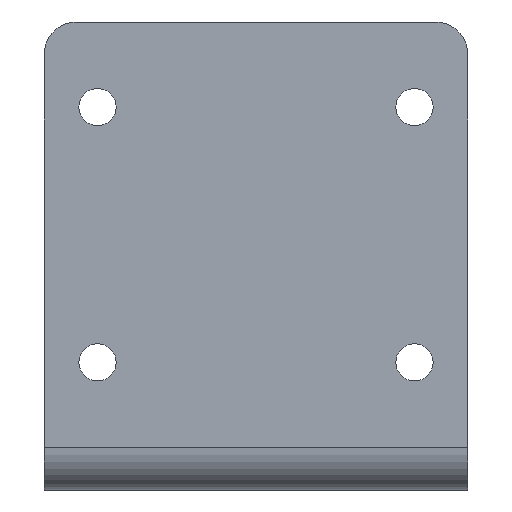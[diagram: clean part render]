
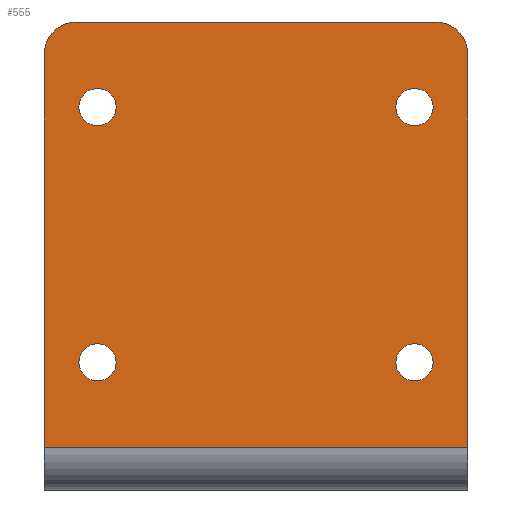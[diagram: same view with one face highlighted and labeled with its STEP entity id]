
A CAD part, front view. The second image highlights one B-rep face of the part: STEP entity #555.
In plain terms, the highlighted planar face has unit normal (0, -1, 0).
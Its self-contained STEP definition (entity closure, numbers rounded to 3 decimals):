
#25=FACE_BOUND('',#101,.T.);
#26=FACE_BOUND('',#102,.T.);
#27=FACE_BOUND('',#103,.T.);
#28=FACE_BOUND('',#104,.T.);
#42=PLANE('',#633);
#63=FACE_OUTER_BOUND('',#100,.T.);
#100=EDGE_LOOP('',(#441,#442,#443,#444,#445,#446));
#101=EDGE_LOOP('',(#447));
#102=EDGE_LOOP('',(#448));
#103=EDGE_LOOP('',(#449));
#104=EDGE_LOOP('',(#450));
#125=LINE('',#836,#163);
#146=LINE('',#922,#184);
#149=LINE('',#927,#187);
#150=LINE('',#929,#188);
#163=VECTOR('',#674,10.);
#184=VECTOR('',#767,10.);
#187=VECTOR('',#772,10.);
#188=VECTOR('',#775,10.);
#196=CIRCLE('',#588,3.);
#202=CIRCLE('',#597,3.);
#224=CIRCLE('',#634,1.75);
#225=CIRCLE('',#635,1.75);
#226=CIRCLE('',#636,1.75);
#227=CIRCLE('',#637,1.75);
#231=VERTEX_POINT('',#811);
#232=VERTEX_POINT('',#813);
#241=VERTEX_POINT('',#835);
#242=VERTEX_POINT('',#839);
#267=VERTEX_POINT('',#915);
#270=VERTEX_POINT('',#920);
#272=VERTEX_POINT('',#930);
#273=VERTEX_POINT('',#932);
#274=VERTEX_POINT('',#934);
#275=VERTEX_POINT('',#936);
#279=EDGE_CURVE('',#231,#232,#196,.T.);
#290=EDGE_CURVE('',#241,#232,#125,.T.);
#292=EDGE_CURVE('',#241,#242,#202,.T.);
#333=EDGE_CURVE('',#270,#267,#146,.T.);
#336=EDGE_CURVE('',#231,#267,#149,.T.);
#337=EDGE_CURVE('',#242,#270,#150,.T.);
#338=EDGE_CURVE('',#272,#272,#224,.T.);
#339=EDGE_CURVE('',#273,#273,#225,.T.);
#340=EDGE_CURVE('',#274,#274,#226,.T.);
#341=EDGE_CURVE('',#275,#275,#227,.T.);
#441=ORIENTED_EDGE('',*,*,#279,.F.);
#442=ORIENTED_EDGE('',*,*,#336,.T.);
#443=ORIENTED_EDGE('',*,*,#333,.F.);
#444=ORIENTED_EDGE('',*,*,#337,.F.);
#445=ORIENTED_EDGE('',*,*,#292,.F.);
#446=ORIENTED_EDGE('',*,*,#290,.T.);
#447=ORIENTED_EDGE('',*,*,#338,.T.);
#448=ORIENTED_EDGE('',*,*,#339,.T.);
#449=ORIENTED_EDGE('',*,*,#340,.T.);
#450=ORIENTED_EDGE('',*,*,#341,.T.);
#555=ADVANCED_FACE('',(#63,#25,#26,#27,#28),#42,.T.);
#588=AXIS2_PLACEMENT_3D('',#814,#653,#654);
#597=AXIS2_PLACEMENT_3D('',#840,#678,#679);
#633=AXIS2_PLACEMENT_3D('',#928,#773,#774);
#634=AXIS2_PLACEMENT_3D('',#931,#776,#777);
#635=AXIS2_PLACEMENT_3D('',#933,#778,#779);
#636=AXIS2_PLACEMENT_3D('',#935,#780,#781);
#637=AXIS2_PLACEMENT_3D('',#937,#782,#783);
#653=DIRECTION('center_axis',(0.,1.,0.));
#654=DIRECTION('ref_axis',(-0.707,0.,0.707));
#674=DIRECTION('',(-1.,0.,0.));
#678=DIRECTION('center_axis',(0.,1.,0.));
#679=DIRECTION('ref_axis',(0.707,0.,0.707));
#767=DIRECTION('',(-1.,0.,0.));
#772=DIRECTION('',(0.,0.,-1.));
#773=DIRECTION('center_axis',(0.,-1.,0.));
#774=DIRECTION('ref_axis',(0.,0.,1.));
#775=DIRECTION('',(0.,0.,-1.));
#776=DIRECTION('center_axis',(0.,1.,0.));
#777=DIRECTION('ref_axis',(1.,0.,0.));
#778=DIRECTION('center_axis',(0.,1.,0.));
#779=DIRECTION('ref_axis',(1.,0.,0.));
#780=DIRECTION('center_axis',(0.,1.,0.));
#781=DIRECTION('ref_axis',(1.,0.,0.));
#782=DIRECTION('center_axis',(0.,1.,0.));
#783=DIRECTION('ref_axis',(1.,0.,0.));
#811=CARTESIAN_POINT('',(-39.8,0.,-3.));
#813=CARTESIAN_POINT('',(-36.8,0.,0.));
#814=CARTESIAN_POINT('Origin',(-36.8,0.,-3.));
#835=CARTESIAN_POINT('',(-3.,0.,0.));
#836=CARTESIAN_POINT('',(0.,0.,0.));
#839=CARTESIAN_POINT('',(0.,0.,-3.));
#840=CARTESIAN_POINT('Origin',(-3.,0.,-3.));
#915=CARTESIAN_POINT('',(-39.8,0.,-40.));
#920=CARTESIAN_POINT('',(0.,0.,-40.));
#922=CARTESIAN_POINT('',(-9.95,0.,-40.));
#927=CARTESIAN_POINT('',(-39.8,0.,-41.));
#928=CARTESIAN_POINT('Origin',(0.,0.,-41.));
#929=CARTESIAN_POINT('',(0.,0.,-41.));
#930=CARTESIAN_POINT('',(-36.55,0.,-8.));
#931=CARTESIAN_POINT('Origin',(-34.8,0.,-8.));
#932=CARTESIAN_POINT('',(-6.75,0.,-8.));
#933=CARTESIAN_POINT('Origin',(-5.,0.,-8.));
#934=CARTESIAN_POINT('',(-36.55,0.,-32.));
#935=CARTESIAN_POINT('Origin',(-34.8,0.,-32.));
#936=CARTESIAN_POINT('',(-6.75,0.,-32.));
#937=CARTESIAN_POINT('Origin',(-5.,0.,-32.));
